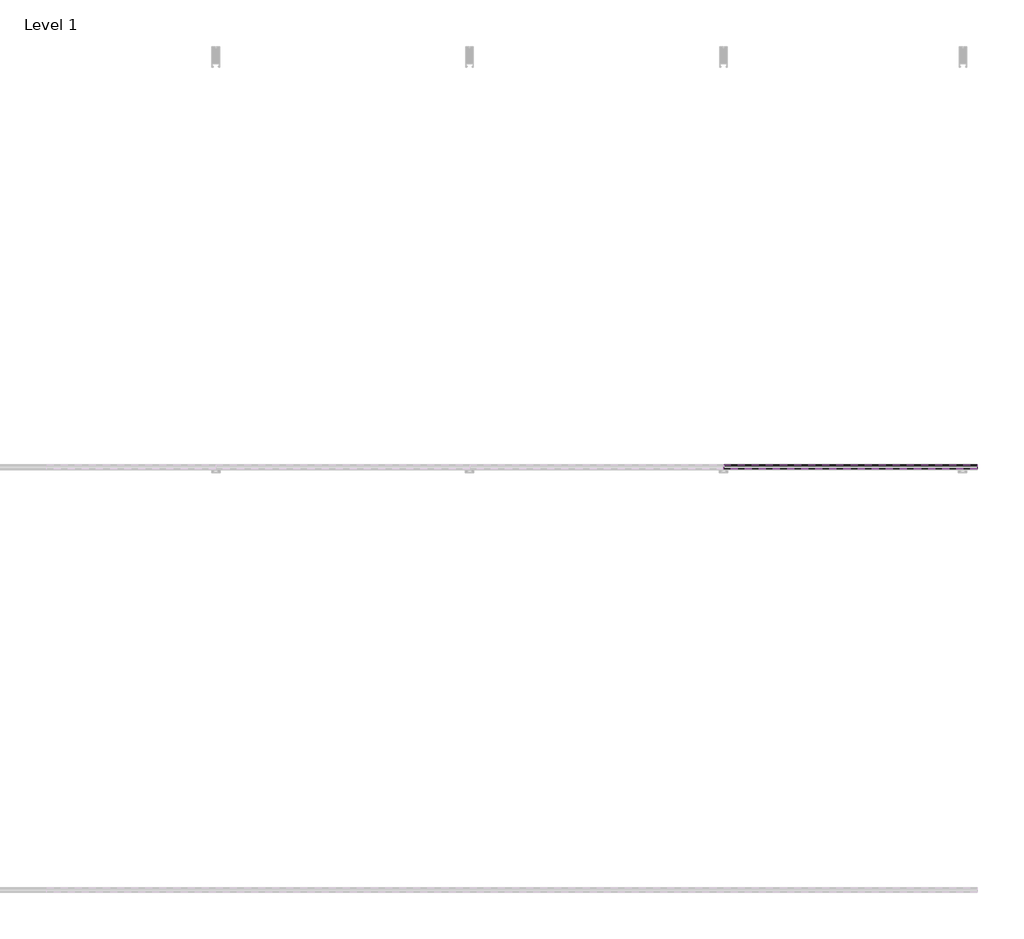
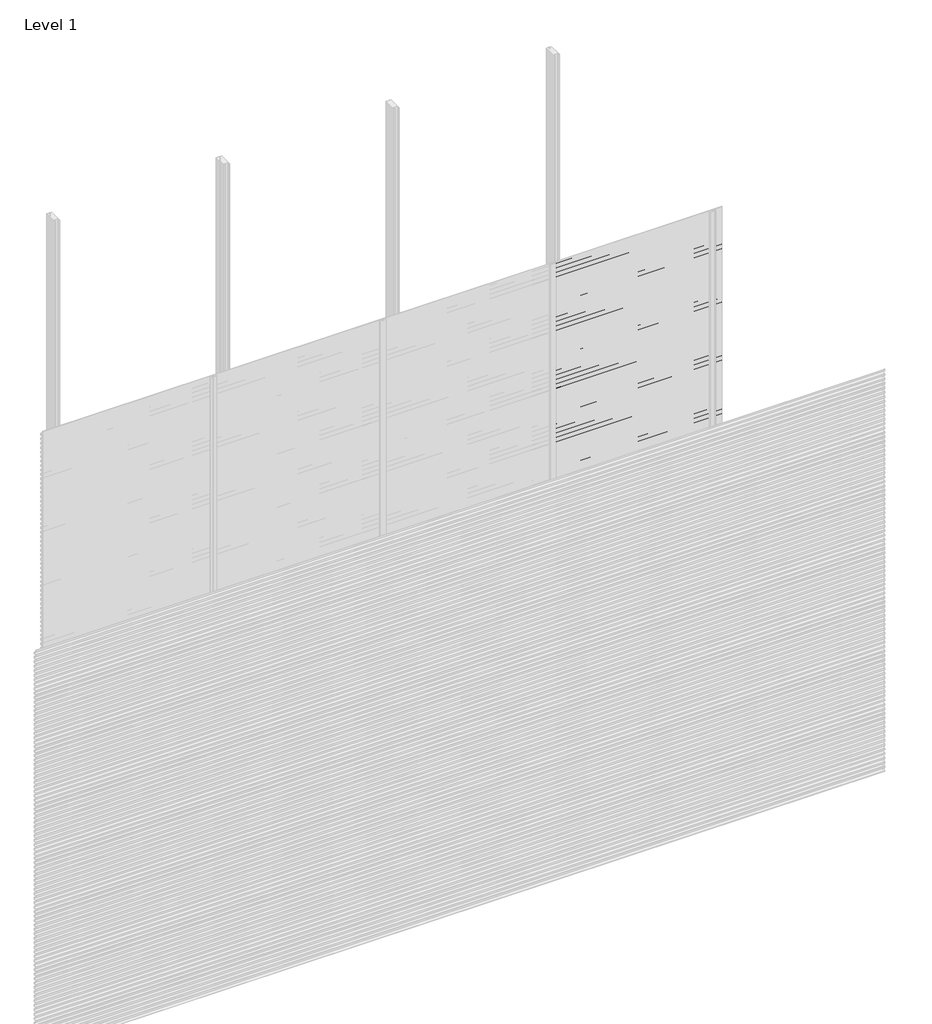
# One storey, part 47 of 77: 72 proxies.
"""IFC4 building model written with IfcOpenShell, lengths in millimetres."""

import ifcopenshell
import ifcopenshell.guid

model = None  # the IFC model being written
_history = None  # IfcOwnerHistory: only IFC2X3 demands one
_inside = {}  # id of a spatial element -> (the spatial element, [elements in it])
_under = {}  # id of a project, library or spatial element -> (it, [spatial elements below it])
_declared = {}  # id of a project -> (the project, [libraries it declares])
_typed = {}  # id of a type object -> (the type object, [elements of that type])
_made_of = {}  # id of a material, layer set ... -> (it, [elements and type objects made of it])


def new_model(schema):
    """Start an empty IFC model of exactly this schema.

    Asked for "IFC4X3", IfcOpenShell would pick the latest addendum, in which some entities
    have other attributes; the version numbers below select the first issue.
    IFC2X3 requires an IfcOwnerHistory on every rooted entity: one is made here for all.
    """
    global model, _history
    if schema == "IFC4X3":
        model = ifcopenshell.file(schema_version=(4, 3, 0, 0))
    else:
        model = ifcopenshell.file(schema=schema)
    _inside.clear()
    _under.clear()
    _declared.clear()
    _typed.clear()
    _made_of.clear()
    _history = None
    if model.schema == "IFC2X3":
        org = make("IfcOrganization", Name="unknown")
        user = make(
            "IfcPersonAndOrganization",
            ThePerson=make("IfcPerson", FamilyName="unknown"),
            TheOrganization=org,
        )
        app = make(
            "IfcApplication",
            ApplicationDeveloper=org,
            Version="unknown",
            ApplicationFullName="unknown",
            ApplicationIdentifier="unknown",
        )
        _history = make(
            "IfcOwnerHistory",
            OwningUser=user,
            OwningApplication=app,
            ChangeAction="ADDED",
            CreationDate=0,
        )
    return model


def make(cls, **values):
    """One entity of the class cls with the attributes given. An attribute that is None is left unset."""
    return model.create_entity(
        cls, **{name: value for name, value in values.items() if value is not None}
    )


def rooted(cls, **values):
    """An entity with a GlobalId (a new one), such as an element, a storey or a relation."""
    return make(cls, GlobalId=ifcopenshell.guid.new(), OwnerHistory=_history, **values)


def si_unit(unit_type, name, prefix=None):
    """IfcSIUnit, for example si_unit("LENGTHUNIT", "METRE", prefix="MILLI")."""
    return make("IfcSIUnit", UnitType=unit_type, Prefix=prefix, Name=name)


def assignment(units):
    """IfcUnitAssignment: the units of a project."""
    return None if units is None else make("IfcUnitAssignment", Units=units)


def point(xyz):
    """IfcCartesianPoint."""
    return None if xyz is None else make("IfcCartesianPoint", Coordinates=xyz)


def direction(xyz):
    """IfcDirection."""
    return None if xyz is None else make("IfcDirection", DirectionRatios=xyz)


def frame(location, z_axis=None, x_axis=None):
    """IfcAxis2Placement3D, a coordinate frame: its origin and axes. An axis left out is left unset."""
    return make(
        "IfcAxis2Placement3D",
        Location=point(location),
        Axis=direction(z_axis),
        RefDirection=direction(x_axis),
    )


def origin():
    """The frame at (0, 0, 0) with its axes left unset."""
    return frame((0.0, 0.0, 0.0))


def place(relative_to, where):
    """IfcLocalPlacement: puts the frame where relative to a parent placement (None: the world)."""
    return make(
        "IfcLocalPlacement", PlacementRelTo=relative_to, RelativePlacement=where
    )


def context(
    kind, dimensions, precision=None, world=None, true_north=None, identifier=None
):
    """IfcGeometricRepresentationContext, for example the 3D "Model" context."""
    return make(
        "IfcGeometricRepresentationContext",
        ContextIdentifier=identifier,
        ContextType=kind,
        CoordinateSpaceDimension=dimensions,
        Precision=precision,
        WorldCoordinateSystem=world,
        TrueNorth=true_north,
    )


def project(units=None, contexts=None):
    """IfcProject with its units and contexts."""
    return rooted(
        "IfcProject",
        Name="project",
        RepresentationContexts=contexts,
        UnitsInContext=assignment(units),
    )


def spatial(cls, under=None, at=None, **own):
    """A site, building, storey or space (cls), placed at a placement, below another one or the project."""
    s = rooted(cls, ObjectPlacement=at, **own)
    if under is not None:
        _under.setdefault(under.id(), (under, []))[1].append(s)
    return s


def polyline(points):
    """IfcPolyline through the points."""
    return make("IfcPolyline", Points=[point(p) for p in points])


def outline(outer, holes=None, kind="AREA"):
    """IfcArbitraryClosedProfileDef: a profile drawn as a closed curve; with holes, ...WithVoids."""
    if holes is None:
        return make("IfcArbitraryClosedProfileDef", ProfileType=kind, OuterCurve=outer)
    return make(
        "IfcArbitraryProfileDefWithVoids",
        ProfileType=kind,
        OuterCurve=outer,
        InnerCurves=holes,
    )


def extrude(swept, where, along, depth):
    """IfcExtrudedAreaSolid: the profile swept, set in the frame where, extruded along a direction by depth."""
    return make(
        "IfcExtrudedAreaSolid",
        SweptArea=swept,
        Position=where,
        ExtrudedDirection=direction(along),
        Depth=depth,
    )


def shape(context_of_items, identifier, shape_type, items):
    """IfcShapeRepresentation: the items that make up one representation, for example the "Body"."""
    return make(
        "IfcShapeRepresentation",
        ContextOfItems=context_of_items,
        RepresentationIdentifier=identifier,
        RepresentationType=shape_type,
        Items=items,
    )


def made_of(thing, what):
    """Note that an element or type object is made of a material, layer set ...; save() writes the relation."""
    if what is not None:
        _made_of.setdefault(what.id(), (what, []))[1].append(thing)
    return thing


def element(
    cls,
    number,
    at=None,
    inside=None,
    cuts=None,
    type_object=None,
    material=None,
    context=None,
    identifier="Body",
    shape_type=None,
    held_by="IfcProductDefinitionShape",
    body=None,
    shapes=None,
    **own,
):
    """One element of the class cls, such as IfcWall. Its Tag is "e" and its number.

    at: its placement. inside: the storey or other place that contains it. cuts: it is an
    opening in that element (IfcRelVoidsElement). A single representation is given by context,
    identifier, shape_type and body (its items); several are given by shapes. held_by: the class
    of the entity that holds the representations. save() writes the other relations.
    """
    e = rooted(cls, Tag="e%d" % number, ObjectPlacement=at, **own)
    if body is not None:
        shapes = [shape(context, identifier, shape_type, body)]
    if shapes is not None:
        e.Representation = make(held_by, Representations=shapes)
    if inside is not None:
        _inside.setdefault(inside.id(), (inside, []))[1].append(e)
    if cuts is not None:
        rooted(
            "IfcRelVoidsElement", RelatingBuildingElement=cuts, RelatedOpeningElement=e
        )
    if type_object is not None:
        _typed.setdefault(type_object.id(), (type_object, []))[1].append(e)
    return made_of(e, material)


def aggregate(whole, parts):
    """IfcRelAggregates: a whole, such as a stair, and the parts it consists of."""
    return rooted("IfcRelAggregates", RelatingObject=whole, RelatedObjects=parts)


def save(model, path):
    """Write the relations noted so far, then the file.

    IfcRelAggregates (storeys below a building ...), IfcRelContainedInSpatialStructure (elements
    in a storey), IfcRelDefinesByType, IfcRelAssociatesMaterial and IfcRelDeclares: one each for
    every whole, place, type object, material and project.
    """
    for whole, parts in _under.values():
        aggregate(whole, parts)
    for where, things in _inside.values():
        rooted(
            "IfcRelContainedInSpatialStructure",
            RelatedElements=things,
            RelatingStructure=where,
        )
    for kind, things in _typed.values():
        rooted("IfcRelDefinesByType", RelatedObjects=things, RelatingType=kind)
    for what, things in _made_of.values():
        rooted("IfcRelAssociatesMaterial", RelatedObjects=things, RelatingMaterial=what)
    for by, libraries in _declared.values():
        rooted("IfcRelDeclares", RelatingContext=by, RelatedDefinitions=libraries)
    model.write(path)


model = new_model("IFC4")

# Units and contexts
model_context = context("Model", 3, world=origin())
ifc_project = project(units=[si_unit("LENGTHUNIT", "METRE", prefix="MILLI")], contexts=[model_context])

# Site, building, storey
site = spatial("IfcSite", under=ifc_project)
building = spatial("IfcBuilding", under=site)
storey = spatial("IfcBuildingStorey", under=building, Name="Level 1", Elevation=0.0)

# Proxies
placement = place(None, origin())
element("IfcBuildingElementProxy", 1, Name="Wall Sweeps", at=placement, inside=storey, context=model_context, shape_type="SweptSolid", body=[
    extrude(outline(polyline([(-23978.6, 408.4359887), (-23998.0, 419.6366691), (-23998.0, 432.9), (-23997.0, 432.9), (-23997.0, 420.2191057), (-23977.6, 409.0185105), (-23977.6, 395.4185105), (-23978.6, 396.9953129), (-23978.6, 402.8032062), (-23995.9773817, 394.7), (-23996.4, 395.6063078), (-23978.6, 403.9065841), (-23978.6, 408.4359887)])), frame((3600.0, 0.0, 0.0), z_axis=(1.0, 0.0, 0.0), x_axis=(0.0, 1.0, 0.0)), (0.0, 0.0, 1.0), 1200.0),
])
element("IfcBuildingElementProxy", 2, Name="Wall Sweeps", at=placement, inside=storey, context=model_context, shape_type="SweptSolid", body=[
    extrude(outline(polyline([(-23978.6, 375.1359887), (-23998.0, 386.3366691), (-23998.0, 399.6), (-23997.0, 399.6), (-23997.0, 386.9191057), (-23977.6, 375.7185105), (-23977.6, 362.1185105), (-23978.6, 363.6953129), (-23978.6, 369.5032062), (-23995.9773817, 361.4), (-23996.4, 362.3063078), (-23978.6, 370.6065841), (-23978.6, 375.1359887)])), frame((3600.0, 0.0, 0.0), z_axis=(1.0, 0.0, 0.0), x_axis=(0.0, 1.0, 0.0)), (0.0, 0.0, 1.0), 1200.0),
])
element("IfcBuildingElementProxy", 3, Name="Wall Sweeps", at=placement, inside=storey, context=model_context, shape_type="SweptSolid", body=[
    extrude(outline(polyline([(-23978.6, 341.8359887), (-23998.0, 353.0366691), (-23998.0, 366.3), (-23997.0, 366.3), (-23997.0, 353.6191057), (-23977.6, 342.4185105), (-23977.6, 328.8185105), (-23978.6, 330.3953129), (-23978.6, 336.2032062), (-23995.9773817, 328.1), (-23996.4, 329.0063078), (-23978.6, 337.3065841), (-23978.6, 341.8359887)])), frame((3600.0, 0.0, 0.0), z_axis=(1.0, 0.0, 0.0), x_axis=(0.0, 1.0, 0.0)), (0.0, 0.0, 1.0), 1200.0),
])
element("IfcBuildingElementProxy", 4, Name="Wall Sweeps", at=placement, inside=storey, context=model_context, shape_type="SweptSolid", body=[
    extrude(outline(polyline([(-23978.6, 308.5359887), (-23998.0, 319.7366691), (-23998.0, 333.0), (-23997.0, 333.0), (-23997.0, 320.3191057), (-23977.6, 309.1185105), (-23977.6, 295.5185105), (-23978.6, 297.0953129), (-23978.6, 302.9032062), (-23995.9773817, 294.8), (-23996.4, 295.7063078), (-23978.6, 304.0065841), (-23978.6, 308.5359887)])), frame((3600.0, 0.0, 0.0), z_axis=(1.0, 0.0, 0.0), x_axis=(0.0, 1.0, 0.0)), (0.0, 0.0, 1.0), 1200.0),
])
element("IfcBuildingElementProxy", 5, Name="Wall Sweeps", at=placement, inside=storey, context=model_context, shape_type="SweptSolid", body=[
    extrude(outline(polyline([(-23978.6, 275.2359887), (-23998.0, 286.4366691), (-23998.0, 299.7), (-23997.0, 299.7), (-23997.0, 287.0191057), (-23977.6, 275.8185105), (-23977.6, 262.2185105), (-23978.6, 263.7953129), (-23978.6, 269.6032062), (-23995.9773817, 261.5), (-23996.4, 262.4063078), (-23978.6, 270.7065841), (-23978.6, 275.2359887)])), frame((3600.0, 0.0, 0.0), z_axis=(1.0, 0.0, 0.0), x_axis=(0.0, 1.0, 0.0)), (0.0, 0.0, 1.0), 1200.0),
])
element("IfcBuildingElementProxy", 6, Name="Wall Sweeps", at=placement, inside=storey, context=model_context, shape_type="SweptSolid", body=[
    extrude(outline(polyline([(-23978.6, 241.9359887), (-23998.0, 253.1366691), (-23998.0, 266.4), (-23997.0, 266.4), (-23997.0, 253.7191057), (-23977.6, 242.5185105), (-23977.6, 228.9185105), (-23978.6, 230.4953129), (-23978.6, 236.3032062), (-23995.9773817, 228.2), (-23996.4, 229.1063078), (-23978.6, 237.4065841), (-23978.6, 241.9359887)])), frame((3600.0, 0.0, 0.0), z_axis=(1.0, 0.0, 0.0), x_axis=(0.0, 1.0, 0.0)), (0.0, 0.0, 1.0), 1200.0),
])
element("IfcBuildingElementProxy", 7, Name="Wall Sweeps", at=placement, inside=storey, context=model_context, shape_type="SweptSolid", body=[
    extrude(outline(polyline([(-23978.6, 208.6359887), (-23998.0, 219.8366691), (-23998.0, 233.1), (-23997.0, 233.1), (-23997.0, 220.4191057), (-23977.6, 209.2185105), (-23977.6, 195.6185105), (-23978.6, 197.1953129), (-23978.6, 203.0032062), (-23995.9773817, 194.9), (-23996.4, 195.8063078), (-23978.6, 204.1065841), (-23978.6, 208.6359887)])), frame((3600.0, 0.0, 0.0), z_axis=(1.0, 0.0, 0.0), x_axis=(0.0, 1.0, 0.0)), (0.0, 0.0, 1.0), 1200.0),
])
element("IfcBuildingElementProxy", 8, Name="Wall Sweeps", at=placement, inside=storey, context=model_context, shape_type="SweptSolid", body=[
    extrude(outline(polyline([(-23978.6, 175.3359887), (-23998.0, 186.5366691), (-23998.0, 199.8), (-23997.0, 199.8), (-23997.0, 187.1191057), (-23977.6, 175.9185105), (-23977.6, 162.3185105), (-23978.6, 163.8953129), (-23978.6, 169.7032062), (-23995.9773817, 161.6), (-23996.4, 162.5063078), (-23978.6, 170.8065841), (-23978.6, 175.3359887)])), frame((3600.0, 0.0, 0.0), z_axis=(1.0, 0.0, 0.0), x_axis=(0.0, 1.0, 0.0)), (0.0, 0.0, 1.0), 1200.0),
])
element("IfcBuildingElementProxy", 9, Name="Wall Sweeps", at=placement, inside=storey, context=model_context, shape_type="SweptSolid", body=[
    extrude(outline(polyline([(-23978.6, 142.0359887), (-23998.0, 153.2366691), (-23998.0, 166.5), (-23997.0, 166.5), (-23997.0, 153.8191057), (-23977.6, 142.6185105), (-23977.6, 129.0185105), (-23978.6, 130.5953129), (-23978.6, 136.4032062), (-23995.9773817, 128.3), (-23996.4, 129.2063078), (-23978.6, 137.5065841), (-23978.6, 142.0359887)])), frame((3600.0, 0.0, 0.0), z_axis=(1.0, 0.0, 0.0), x_axis=(0.0, 1.0, 0.0)), (0.0, 0.0, 1.0), 1200.0),
])
element("IfcBuildingElementProxy", 10, Name="Wall Sweeps", at=placement, inside=storey, context=model_context, shape_type="SweptSolid", body=[
    extrude(outline(polyline([(-23978.6, 108.7359887), (-23998.0, 119.9366691), (-23998.0, 133.2), (-23997.0, 133.2), (-23997.0, 120.5191057), (-23977.6, 109.3185105), (-23977.6, 95.7185105), (-23978.6, 97.2953129), (-23978.6, 103.1032062), (-23995.9773817, 95.0), (-23996.4, 95.9063078), (-23978.6, 104.2065841), (-23978.6, 108.7359887)])), frame((3600.0, 0.0, 0.0), z_axis=(1.0, 0.0, 0.0), x_axis=(0.0, 1.0, 0.0)), (0.0, 0.0, 1.0), 1200.0),
])
element("IfcBuildingElementProxy", 11, Name="Wall Sweeps", at=placement, inside=storey, context=model_context, shape_type="SweptSolid", body=[
    extrude(outline(polyline([(-23978.6, 75.4359887), (-23998.0, 86.6366691), (-23998.0, 99.9), (-23997.0, 99.9), (-23997.0, 87.2191057), (-23977.6, 76.0185105), (-23977.6, 62.4185105), (-23978.6, 63.9953129), (-23978.6, 69.8032062), (-23995.9773817, 61.7), (-23996.4, 62.6063078), (-23978.6, 70.9065841), (-23978.6, 75.4359887)])), frame((3600.0, 0.0, 0.0), z_axis=(1.0, 0.0, 0.0), x_axis=(0.0, 1.0, 0.0)), (0.0, 0.0, 1.0), 1200.0),
])
element("IfcBuildingElementProxy", 12, Name="Wall Sweeps", at=placement, inside=storey, context=model_context, shape_type="SweptSolid", body=[
    extrude(outline(polyline([(-23978.6, 42.1359887), (-23998.0, 53.3366691), (-23998.0, 66.6), (-23997.0, 66.6), (-23997.0, 53.9191057), (-23977.6, 42.7185105), (-23977.6, 29.1185105), (-23978.6, 30.6953129), (-23978.6, 36.5032062), (-23995.9773817, 28.4), (-23996.4, 29.3063078), (-23978.6, 37.6065841), (-23978.6, 42.1359887)])), frame((3600.0, 0.0, 0.0), z_axis=(1.0, 0.0, 0.0), x_axis=(0.0, 1.0, 0.0)), (0.0, 0.0, 1.0), 1200.0),
])
element("IfcBuildingElementProxy", 13, Name="Wall Sweeps", at=placement, inside=storey, context=model_context, shape_type="SweptSolid", body=[
    extrude(outline(polyline([(-23978.6, 8.8359887), (-23998.0, 20.0366691), (-23998.0, 33.3), (-23997.0, 33.3), (-23997.0, 20.6191057), (-23977.6, 9.4185105), (-23977.6, -4.1814895), (-23978.6, -2.6046871), (-23978.6, 3.2032062), (-23995.9773817, -4.9), (-23996.4, -3.9936922), (-23978.6, 4.3065841), (-23978.6, 8.8359887)])), frame((3600.0, 0.0, 0.0), z_axis=(1.0, 0.0, 0.0), x_axis=(0.0, 1.0, 0.0)), (0.0, 0.0, 1.0), 1200.0),
])
element("IfcBuildingElementProxy", 14, Name="Wall Sweeps", at=placement, inside=storey, context=model_context, shape_type="SweptSolid", body=[
    extrude(outline(polyline([(-23978.6, 2972.5359887), (-23998.0, 2983.7366691), (-23998.0, 2997.0), (-23997.0, 2997.0), (-23997.0, 2984.3191057), (-23977.6, 2973.1185105), (-23977.6, 2959.5185105), (-23978.6, 2961.0953129), (-23978.6, 2966.9032062), (-23995.9773817, 2958.8), (-23996.4, 2959.7063078), (-23978.6, 2968.0065841), (-23978.6, 2972.5359887)])), frame((4800.0, 0.0, 0.0), z_axis=(1.0, 0.0, 0.0), x_axis=(0.0, 1.0, 0.0)), (0.0, 0.0, 1.0), 1200.0),
])
element("IfcBuildingElementProxy", 15, Name="Wall Sweeps", at=placement, inside=storey, context=model_context, shape_type="SweptSolid", body=[
    extrude(outline(polyline([(-23978.6, 2939.2359887), (-23998.0, 2950.4366691), (-23998.0, 2963.7), (-23997.0, 2963.7), (-23997.0, 2951.0191057), (-23977.6, 2939.8185105), (-23977.6, 2926.2185105), (-23978.6, 2927.7953129), (-23978.6, 2933.6032062), (-23995.9773817, 2925.5), (-23996.4, 2926.4063078), (-23978.6, 2934.7065841), (-23978.6, 2939.2359887)])), frame((4800.0, 0.0, 0.0), z_axis=(1.0, 0.0, 0.0), x_axis=(0.0, 1.0, 0.0)), (0.0, 0.0, 1.0), 1200.0),
])
element("IfcBuildingElementProxy", 16, Name="Wall Sweeps", at=placement, inside=storey, context=model_context, shape_type="SweptSolid", body=[
    extrude(outline(polyline([(-23978.6, 2905.9359887), (-23998.0, 2917.1366691), (-23998.0, 2930.4), (-23997.0, 2930.4), (-23997.0, 2917.7191057), (-23977.6, 2906.5185105), (-23977.6, 2892.9185105), (-23978.6, 2894.4953129), (-23978.6, 2900.3032062), (-23995.9773817, 2892.2), (-23996.4, 2893.1063078), (-23978.6, 2901.4065841), (-23978.6, 2905.9359887)])), frame((4800.0, 0.0, 0.0), z_axis=(1.0, 0.0, 0.0), x_axis=(0.0, 1.0, 0.0)), (0.0, 0.0, 1.0), 1200.0),
])
element("IfcBuildingElementProxy", 17, Name="Wall Sweeps", at=placement, inside=storey, context=model_context, shape_type="SweptSolid", body=[
    extrude(outline(polyline([(-23978.6, 2872.6359887), (-23998.0, 2883.8366691), (-23998.0, 2897.1), (-23997.0, 2897.1), (-23997.0, 2884.4191057), (-23977.6, 2873.2185105), (-23977.6, 2859.6185105), (-23978.6, 2861.1953129), (-23978.6, 2867.0032062), (-23995.9773817, 2858.9), (-23996.4, 2859.8063078), (-23978.6, 2868.1065841), (-23978.6, 2872.6359887)])), frame((4800.0, 0.0, 0.0), z_axis=(1.0, 0.0, 0.0), x_axis=(0.0, 1.0, 0.0)), (0.0, 0.0, 1.0), 1200.0),
])
element("IfcBuildingElementProxy", 18, Name="Wall Sweeps", at=placement, inside=storey, context=model_context, shape_type="SweptSolid", body=[
    extrude(outline(polyline([(-23978.6, 2839.3359887), (-23998.0, 2850.5366691), (-23998.0, 2863.8), (-23997.0, 2863.8), (-23997.0, 2851.1191057), (-23977.6, 2839.9185105), (-23977.6, 2826.3185105), (-23978.6, 2827.8953129), (-23978.6, 2833.7032062), (-23995.9773817, 2825.6), (-23996.4, 2826.5063078), (-23978.6, 2834.8065841), (-23978.6, 2839.3359887)])), frame((4800.0, 0.0, 0.0), z_axis=(1.0, 0.0, 0.0), x_axis=(0.0, 1.0, 0.0)), (0.0, 0.0, 1.0), 1200.0),
])
element("IfcBuildingElementProxy", 19, Name="Wall Sweeps", at=placement, inside=storey, context=model_context, shape_type="SweptSolid", body=[
    extrude(outline(polyline([(-23978.6, 2806.0359887), (-23998.0, 2817.2366691), (-23998.0, 2830.5), (-23997.0, 2830.5), (-23997.0, 2817.8191057), (-23977.6, 2806.6185105), (-23977.6, 2793.0185105), (-23978.6, 2794.5953129), (-23978.6, 2800.4032062), (-23995.9773817, 2792.3), (-23996.4, 2793.2063078), (-23978.6, 2801.5065841), (-23978.6, 2806.0359887)])), frame((4800.0, 0.0, 0.0), z_axis=(1.0, 0.0, 0.0), x_axis=(0.0, 1.0, 0.0)), (0.0, 0.0, 1.0), 1200.0),
])
element("IfcBuildingElementProxy", 20, Name="Wall Sweeps", at=placement, inside=storey, context=model_context, shape_type="SweptSolid", body=[
    extrude(outline(polyline([(-23978.6, 2772.7359887), (-23998.0, 2783.9366691), (-23998.0, 2797.2), (-23997.0, 2797.2), (-23997.0, 2784.5191057), (-23977.6, 2773.3185105), (-23977.6, 2759.7185105), (-23978.6, 2761.2953129), (-23978.6, 2767.1032062), (-23995.9773817, 2759.0), (-23996.4, 2759.9063078), (-23978.6, 2768.2065841), (-23978.6, 2772.7359887)])), frame((4800.0, 0.0, 0.0), z_axis=(1.0, 0.0, 0.0), x_axis=(0.0, 1.0, 0.0)), (0.0, 0.0, 1.0), 1200.0),
])
element("IfcBuildingElementProxy", 21, Name="Wall Sweeps", at=placement, inside=storey, context=model_context, shape_type="SweptSolid", body=[
    extrude(outline(polyline([(-23978.6, 2739.4359887), (-23998.0, 2750.6366691), (-23998.0, 2763.9), (-23997.0, 2763.9), (-23997.0, 2751.2191057), (-23977.6, 2740.0185105), (-23977.6, 2726.4185105), (-23978.6, 2727.9953129), (-23978.6, 2733.8032062), (-23995.9773817, 2725.7), (-23996.4, 2726.6063078), (-23978.6, 2734.9065841), (-23978.6, 2739.4359887)])), frame((4800.0, 0.0, 0.0), z_axis=(1.0, 0.0, 0.0), x_axis=(0.0, 1.0, 0.0)), (0.0, 0.0, 1.0), 1200.0),
])
element("IfcBuildingElementProxy", 22, Name="Wall Sweeps", at=placement, inside=storey, context=model_context, shape_type="SweptSolid", body=[
    extrude(outline(polyline([(-23978.6, 2706.1359887), (-23998.0, 2717.3366691), (-23998.0, 2730.6), (-23997.0, 2730.6), (-23997.0, 2717.9191057), (-23977.6, 2706.7185105), (-23977.6, 2693.1185105), (-23978.6, 2694.6953129), (-23978.6, 2700.5032062), (-23995.9773817, 2692.4), (-23996.4, 2693.3063078), (-23978.6, 2701.6065841), (-23978.6, 2706.1359887)])), frame((4800.0, 0.0, 0.0), z_axis=(1.0, 0.0, 0.0), x_axis=(0.0, 1.0, 0.0)), (0.0, 0.0, 1.0), 1200.0),
])
element("IfcBuildingElementProxy", 23, Name="Wall Sweeps", at=placement, inside=storey, context=model_context, shape_type="SweptSolid", body=[
    extrude(outline(polyline([(-23978.6, 2672.8359887), (-23998.0, 2684.0366691), (-23998.0, 2697.3), (-23997.0, 2697.3), (-23997.0, 2684.6191057), (-23977.6, 2673.4185105), (-23977.6, 2659.8185105), (-23978.6, 2661.3953129), (-23978.6, 2667.2032062), (-23995.9773817, 2659.1), (-23996.4, 2660.0063078), (-23978.6, 2668.3065841), (-23978.6, 2672.8359887)])), frame((4800.0, 0.0, 0.0), z_axis=(1.0, 0.0, 0.0), x_axis=(0.0, 1.0, 0.0)), (0.0, 0.0, 1.0), 1200.0),
])
element("IfcBuildingElementProxy", 24, Name="Wall Sweeps", at=placement, inside=storey, context=model_context, shape_type="SweptSolid", body=[
    extrude(outline(polyline([(-23978.6, 2639.5359887), (-23998.0, 2650.7366691), (-23998.0, 2664.0), (-23997.0, 2664.0), (-23997.0, 2651.3191057), (-23977.6, 2640.1185105), (-23977.6, 2626.5185105), (-23978.6, 2628.0953129), (-23978.6, 2633.9032062), (-23995.9773817, 2625.8), (-23996.4, 2626.7063078), (-23978.6, 2635.0065841), (-23978.6, 2639.5359887)])), frame((4800.0, 0.0, 0.0), z_axis=(1.0, 0.0, 0.0), x_axis=(0.0, 1.0, 0.0)), (0.0, 0.0, 1.0), 1200.0),
])
element("IfcBuildingElementProxy", 25, Name="Wall Sweeps", at=placement, inside=storey, context=model_context, shape_type="SweptSolid", body=[
    extrude(outline(polyline([(-23978.6, 2606.2359887), (-23998.0, 2617.4366691), (-23998.0, 2630.7), (-23997.0, 2630.7), (-23997.0, 2618.0191057), (-23977.6, 2606.8185105), (-23977.6, 2593.2185105), (-23978.6, 2594.7953129), (-23978.6, 2600.6032062), (-23995.9773817, 2592.5), (-23996.4, 2593.4063078), (-23978.6, 2601.7065841), (-23978.6, 2606.2359887)])), frame((4800.0, 0.0, 0.0), z_axis=(1.0, 0.0, 0.0), x_axis=(0.0, 1.0, 0.0)), (0.0, 0.0, 1.0), 1200.0),
])
element("IfcBuildingElementProxy", 26, Name="Wall Sweeps", at=placement, inside=storey, context=model_context, shape_type="SweptSolid", body=[
    extrude(outline(polyline([(-23978.6, 2572.9359887), (-23998.0, 2584.1366691), (-23998.0, 2597.4), (-23997.0, 2597.4), (-23997.0, 2584.7191057), (-23977.6, 2573.5185105), (-23977.6, 2559.9185105), (-23978.6, 2561.4953129), (-23978.6, 2567.3032062), (-23995.9773817, 2559.2), (-23996.4, 2560.1063078), (-23978.6, 2568.4065841), (-23978.6, 2572.9359887)])), frame((4800.0, 0.0, 0.0), z_axis=(1.0, 0.0, 0.0), x_axis=(0.0, 1.0, 0.0)), (0.0, 0.0, 1.0), 1200.0),
])
element("IfcBuildingElementProxy", 27, Name="Wall Sweeps", at=placement, inside=storey, context=model_context, shape_type="SweptSolid", body=[
    extrude(outline(polyline([(-23978.6, 2539.6359887), (-23998.0, 2550.8366691), (-23998.0, 2564.1), (-23997.0, 2564.1), (-23997.0, 2551.4191057), (-23977.6, 2540.2185105), (-23977.6, 2526.6185105), (-23978.6, 2528.1953129), (-23978.6, 2534.0032062), (-23995.9773817, 2525.9), (-23996.4, 2526.8063078), (-23978.6, 2535.1065841), (-23978.6, 2539.6359887)])), frame((4800.0, 0.0, 0.0), z_axis=(1.0, 0.0, 0.0), x_axis=(0.0, 1.0, 0.0)), (0.0, 0.0, 1.0), 1200.0),
])
element("IfcBuildingElementProxy", 28, Name="Wall Sweeps", at=placement, inside=storey, context=model_context, shape_type="SweptSolid", body=[
    extrude(outline(polyline([(-23978.6, 2506.3359887), (-23998.0, 2517.5366691), (-23998.0, 2530.8), (-23997.0, 2530.8), (-23997.0, 2518.1191057), (-23977.6, 2506.9185105), (-23977.6, 2493.3185105), (-23978.6, 2494.8953129), (-23978.6, 2500.7032062), (-23995.9773817, 2492.6), (-23996.4, 2493.5063078), (-23978.6, 2501.8065841), (-23978.6, 2506.3359887)])), frame((4800.0, 0.0, 0.0), z_axis=(1.0, 0.0, 0.0), x_axis=(0.0, 1.0, 0.0)), (0.0, 0.0, 1.0), 1200.0),
])
element("IfcBuildingElementProxy", 29, Name="Wall Sweeps", at=placement, inside=storey, context=model_context, shape_type="SweptSolid", body=[
    extrude(outline(polyline([(-23978.6, 2473.0359887), (-23998.0, 2484.2366691), (-23998.0, 2497.5), (-23997.0, 2497.5), (-23997.0, 2484.8191057), (-23977.6, 2473.6185105), (-23977.6, 2460.0185105), (-23978.6, 2461.5953129), (-23978.6, 2467.4032062), (-23995.9773817, 2459.3), (-23996.4, 2460.2063078), (-23978.6, 2468.5065841), (-23978.6, 2473.0359887)])), frame((4800.0, 0.0, 0.0), z_axis=(1.0, 0.0, 0.0), x_axis=(0.0, 1.0, 0.0)), (0.0, 0.0, 1.0), 1200.0),
])
element("IfcBuildingElementProxy", 30, Name="Wall Sweeps", at=placement, inside=storey, context=model_context, shape_type="SweptSolid", body=[
    extrude(outline(polyline([(-23978.6, 2439.7359887), (-23998.0, 2450.9366691), (-23998.0, 2464.2), (-23997.0, 2464.2), (-23997.0, 2451.5191057), (-23977.6, 2440.3185105), (-23977.6, 2426.7185105), (-23978.6, 2428.2953129), (-23978.6, 2434.1032062), (-23995.9773817, 2426.0), (-23996.4, 2426.9063078), (-23978.6, 2435.2065841), (-23978.6, 2439.7359887)])), frame((4800.0, 0.0, 0.0), z_axis=(1.0, 0.0, 0.0), x_axis=(0.0, 1.0, 0.0)), (0.0, 0.0, 1.0), 1200.0),
])
element("IfcBuildingElementProxy", 31, Name="Wall Sweeps", at=placement, inside=storey, context=model_context, shape_type="SweptSolid", body=[
    extrude(outline(polyline([(-23978.6, 2406.4359887), (-23998.0, 2417.6366691), (-23998.0, 2430.9), (-23997.0, 2430.9), (-23997.0, 2418.2191057), (-23977.6, 2407.0185105), (-23977.6, 2393.4185105), (-23978.6, 2394.9953129), (-23978.6, 2400.8032062), (-23995.9773817, 2392.7), (-23996.4, 2393.6063078), (-23978.6, 2401.9065841), (-23978.6, 2406.4359887)])), frame((4800.0, 0.0, 0.0), z_axis=(1.0, 0.0, 0.0), x_axis=(0.0, 1.0, 0.0)), (0.0, 0.0, 1.0), 1200.0),
])
element("IfcBuildingElementProxy", 32, Name="Wall Sweeps", at=placement, inside=storey, context=model_context, shape_type="SweptSolid", body=[
    extrude(outline(polyline([(-23978.6, 2373.1359887), (-23998.0, 2384.3366691), (-23998.0, 2397.6), (-23997.0, 2397.6), (-23997.0, 2384.9191057), (-23977.6, 2373.7185105), (-23977.6, 2360.1185105), (-23978.6, 2361.6953129), (-23978.6, 2367.5032062), (-23995.9773817, 2359.4), (-23996.4, 2360.3063078), (-23978.6, 2368.6065841), (-23978.6, 2373.1359887)])), frame((4800.0, 0.0, 0.0), z_axis=(1.0, 0.0, 0.0), x_axis=(0.0, 1.0, 0.0)), (0.0, 0.0, 1.0), 1200.0),
])
element("IfcBuildingElementProxy", 33, Name="Wall Sweeps", at=placement, inside=storey, context=model_context, shape_type="SweptSolid", body=[
    extrude(outline(polyline([(-23978.6, 2339.8359887), (-23998.0, 2351.0366691), (-23998.0, 2364.3), (-23997.0, 2364.3), (-23997.0, 2351.6191057), (-23977.6, 2340.4185105), (-23977.6, 2326.8185105), (-23978.6, 2328.3953129), (-23978.6, 2334.2032062), (-23995.9773817, 2326.1), (-23996.4, 2327.0063078), (-23978.6, 2335.3065841), (-23978.6, 2339.8359887)])), frame((4800.0, 0.0, 0.0), z_axis=(1.0, 0.0, 0.0), x_axis=(0.0, 1.0, 0.0)), (0.0, 0.0, 1.0), 1200.0),
])
element("IfcBuildingElementProxy", 34, Name="Wall Sweeps", at=placement, inside=storey, context=model_context, shape_type="SweptSolid", body=[
    extrude(outline(polyline([(-23978.6, 2306.5359887), (-23998.0, 2317.7366691), (-23998.0, 2331.0), (-23997.0, 2331.0), (-23997.0, 2318.3191057), (-23977.6, 2307.1185105), (-23977.6, 2293.5185105), (-23978.6, 2295.0953129), (-23978.6, 2300.9032062), (-23995.9773817, 2292.8), (-23996.4, 2293.7063078), (-23978.6, 2302.0065841), (-23978.6, 2306.5359887)])), frame((4800.0, 0.0, 0.0), z_axis=(1.0, 0.0, 0.0), x_axis=(0.0, 1.0, 0.0)), (0.0, 0.0, 1.0), 1200.0),
])
element("IfcBuildingElementProxy", 35, Name="Wall Sweeps", at=placement, inside=storey, context=model_context, shape_type="SweptSolid", body=[
    extrude(outline(polyline([(-23978.6, 2273.2359887), (-23998.0, 2284.4366691), (-23998.0, 2297.7), (-23997.0, 2297.7), (-23997.0, 2285.0191057), (-23977.6, 2273.8185105), (-23977.6, 2260.2185105), (-23978.6, 2261.7953129), (-23978.6, 2267.6032062), (-23995.9773817, 2259.5), (-23996.4, 2260.4063078), (-23978.6, 2268.7065841), (-23978.6, 2273.2359887)])), frame((4800.0, 0.0, 0.0), z_axis=(1.0, 0.0, 0.0), x_axis=(0.0, 1.0, 0.0)), (0.0, 0.0, 1.0), 1200.0),
])
element("IfcBuildingElementProxy", 36, Name="Wall Sweeps", at=placement, inside=storey, context=model_context, shape_type="SweptSolid", body=[
    extrude(outline(polyline([(-23978.6, 2239.9359887), (-23998.0, 2251.1366691), (-23998.0, 2264.4), (-23997.0, 2264.4), (-23997.0, 2251.7191057), (-23977.6, 2240.5185105), (-23977.6, 2226.9185105), (-23978.6, 2228.4953129), (-23978.6, 2234.3032062), (-23995.9773817, 2226.2), (-23996.4, 2227.1063078), (-23978.6, 2235.4065841), (-23978.6, 2239.9359887)])), frame((4800.0, 0.0, 0.0), z_axis=(1.0, 0.0, 0.0), x_axis=(0.0, 1.0, 0.0)), (0.0, 0.0, 1.0), 1200.0),
])
element("IfcBuildingElementProxy", 37, Name="Wall Sweeps", at=placement, inside=storey, context=model_context, shape_type="SweptSolid", body=[
    extrude(outline(polyline([(-23978.6, 2206.6359887), (-23998.0, 2217.8366691), (-23998.0, 2231.1), (-23997.0, 2231.1), (-23997.0, 2218.4191057), (-23977.6, 2207.2185105), (-23977.6, 2193.6185105), (-23978.6, 2195.1953129), (-23978.6, 2201.0032062), (-23995.9773817, 2192.9), (-23996.4, 2193.8063078), (-23978.6, 2202.1065841), (-23978.6, 2206.6359887)])), frame((4800.0, 0.0, 0.0), z_axis=(1.0, 0.0, 0.0), x_axis=(0.0, 1.0, 0.0)), (0.0, 0.0, 1.0), 1200.0),
])
element("IfcBuildingElementProxy", 38, Name="Wall Sweeps", at=placement, inside=storey, context=model_context, shape_type="SweptSolid", body=[
    extrude(outline(polyline([(-23978.6, 2173.3359887), (-23998.0, 2184.5366691), (-23998.0, 2197.8), (-23997.0, 2197.8), (-23997.0, 2185.1191057), (-23977.6, 2173.9185105), (-23977.6, 2160.3185105), (-23978.6, 2161.8953129), (-23978.6, 2167.7032062), (-23995.9773817, 2159.6), (-23996.4, 2160.5063078), (-23978.6, 2168.8065841), (-23978.6, 2173.3359887)])), frame((4800.0, 0.0, 0.0), z_axis=(1.0, 0.0, 0.0), x_axis=(0.0, 1.0, 0.0)), (0.0, 0.0, 1.0), 1200.0),
])
element("IfcBuildingElementProxy", 39, Name="Wall Sweeps", at=placement, inside=storey, context=model_context, shape_type="SweptSolid", body=[
    extrude(outline(polyline([(-23978.6, 2140.0359887), (-23998.0, 2151.2366691), (-23998.0, 2164.5), (-23997.0, 2164.5), (-23997.0, 2151.8191057), (-23977.6, 2140.6185105), (-23977.6, 2127.0185105), (-23978.6, 2128.5953129), (-23978.6, 2134.4032062), (-23995.9773817, 2126.3), (-23996.4, 2127.2063078), (-23978.6, 2135.5065841), (-23978.6, 2140.0359887)])), frame((4800.0, 0.0, 0.0), z_axis=(1.0, 0.0, 0.0), x_axis=(0.0, 1.0, 0.0)), (0.0, 0.0, 1.0), 1200.0),
])
element("IfcBuildingElementProxy", 40, Name="Wall Sweeps", at=placement, inside=storey, context=model_context, shape_type="SweptSolid", body=[
    extrude(outline(polyline([(-23978.6, 2106.7359887), (-23998.0, 2117.9366691), (-23998.0, 2131.2), (-23997.0, 2131.2), (-23997.0, 2118.5191057), (-23977.6, 2107.3185105), (-23977.6, 2093.7185105), (-23978.6, 2095.2953129), (-23978.6, 2101.1032062), (-23995.9773817, 2093.0), (-23996.4, 2093.9063078), (-23978.6, 2102.2065841), (-23978.6, 2106.7359887)])), frame((4800.0, 0.0, 0.0), z_axis=(1.0, 0.0, 0.0), x_axis=(0.0, 1.0, 0.0)), (0.0, 0.0, 1.0), 1200.0),
])
element("IfcBuildingElementProxy", 41, Name="Wall Sweeps", at=placement, inside=storey, context=model_context, shape_type="SweptSolid", body=[
    extrude(outline(polyline([(-23978.6, 2073.4359887), (-23998.0, 2084.6366691), (-23998.0, 2097.9), (-23997.0, 2097.9), (-23997.0, 2085.2191057), (-23977.6, 2074.0185105), (-23977.6, 2060.4185105), (-23978.6, 2061.9953129), (-23978.6, 2067.8032062), (-23995.9773817, 2059.7), (-23996.4, 2060.6063078), (-23978.6, 2068.9065841), (-23978.6, 2073.4359887)])), frame((4800.0, 0.0, 0.0), z_axis=(1.0, 0.0, 0.0), x_axis=(0.0, 1.0, 0.0)), (0.0, 0.0, 1.0), 1200.0),
])
element("IfcBuildingElementProxy", 42, Name="Wall Sweeps", at=placement, inside=storey, context=model_context, shape_type="SweptSolid", body=[
    extrude(outline(polyline([(-23978.6, 2040.1359887), (-23998.0, 2051.3366691), (-23998.0, 2064.6), (-23997.0, 2064.6), (-23997.0, 2051.9191057), (-23977.6, 2040.7185105), (-23977.6, 2027.1185105), (-23978.6, 2028.6953129), (-23978.6, 2034.5032062), (-23995.9773817, 2026.4), (-23996.4, 2027.3063078), (-23978.6, 2035.6065841), (-23978.6, 2040.1359887)])), frame((4800.0, 0.0, 0.0), z_axis=(1.0, 0.0, 0.0), x_axis=(0.0, 1.0, 0.0)), (0.0, 0.0, 1.0), 1200.0),
])
element("IfcBuildingElementProxy", 43, Name="Wall Sweeps", at=placement, inside=storey, context=model_context, shape_type="SweptSolid", body=[
    extrude(outline(polyline([(-23978.6, 2006.8359887), (-23998.0, 2018.0366691), (-23998.0, 2031.3), (-23997.0, 2031.3), (-23997.0, 2018.6191057), (-23977.6, 2007.4185105), (-23977.6, 1993.8185105), (-23978.6, 1995.3953129), (-23978.6, 2001.2032062), (-23995.9773817, 1993.1), (-23996.4, 1994.0063078), (-23978.6, 2002.3065841), (-23978.6, 2006.8359887)])), frame((4800.0, 0.0, 0.0), z_axis=(1.0, 0.0, 0.0), x_axis=(0.0, 1.0, 0.0)), (0.0, 0.0, 1.0), 1200.0),
])
element("IfcBuildingElementProxy", 44, Name="Wall Sweeps", at=placement, inside=storey, context=model_context, shape_type="SweptSolid", body=[
    extrude(outline(polyline([(-23978.6, 1973.5359887), (-23998.0, 1984.7366691), (-23998.0, 1998.0), (-23997.0, 1998.0), (-23997.0, 1985.3191057), (-23977.6, 1974.1185105), (-23977.6, 1960.5185105), (-23978.6, 1962.0953129), (-23978.6, 1967.9032062), (-23995.9773817, 1959.8), (-23996.4, 1960.7063078), (-23978.6, 1969.0065841), (-23978.6, 1973.5359887)])), frame((4800.0, 0.0, 0.0), z_axis=(1.0, 0.0, 0.0), x_axis=(0.0, 1.0, 0.0)), (0.0, 0.0, 1.0), 1200.0),
])
element("IfcBuildingElementProxy", 45, Name="Wall Sweeps", at=placement, inside=storey, context=model_context, shape_type="SweptSolid", body=[
    extrude(outline(polyline([(-23978.6, 1940.2359887), (-23998.0, 1951.4366691), (-23998.0, 1964.7), (-23997.0, 1964.7), (-23997.0, 1952.0191057), (-23977.6, 1940.8185105), (-23977.6, 1927.2185105), (-23978.6, 1928.7953129), (-23978.6, 1934.6032062), (-23995.9773817, 1926.5), (-23996.4, 1927.4063078), (-23978.6, 1935.7065841), (-23978.6, 1940.2359887)])), frame((4800.0, 0.0, 0.0), z_axis=(1.0, 0.0, 0.0), x_axis=(0.0, 1.0, 0.0)), (0.0, 0.0, 1.0), 1200.0),
])
element("IfcBuildingElementProxy", 46, Name="Wall Sweeps", at=placement, inside=storey, context=model_context, shape_type="SweptSolid", body=[
    extrude(outline(polyline([(-23978.6, 1906.9359887), (-23998.0, 1918.1366691), (-23998.0, 1931.4), (-23997.0, 1931.4), (-23997.0, 1918.7191057), (-23977.6, 1907.5185105), (-23977.6, 1893.9185105), (-23978.6, 1895.4953129), (-23978.6, 1901.3032062), (-23995.9773817, 1893.2), (-23996.4, 1894.1063078), (-23978.6, 1902.4065841), (-23978.6, 1906.9359887)])), frame((4800.0, 0.0, 0.0), z_axis=(1.0, 0.0, 0.0), x_axis=(0.0, 1.0, 0.0)), (0.0, 0.0, 1.0), 1200.0),
])
element("IfcBuildingElementProxy", 47, Name="Wall Sweeps", at=placement, inside=storey, context=model_context, shape_type="SweptSolid", body=[
    extrude(outline(polyline([(-23978.6, 1873.6359887), (-23998.0, 1884.8366691), (-23998.0, 1898.1), (-23997.0, 1898.1), (-23997.0, 1885.4191057), (-23977.6, 1874.2185105), (-23977.6, 1860.6185105), (-23978.6, 1862.1953129), (-23978.6, 1868.0032062), (-23995.9773817, 1859.9), (-23996.4, 1860.8063078), (-23978.6, 1869.1065841), (-23978.6, 1873.6359887)])), frame((4800.0, 0.0, 0.0), z_axis=(1.0, 0.0, 0.0), x_axis=(0.0, 1.0, 0.0)), (0.0, 0.0, 1.0), 1200.0),
])
element("IfcBuildingElementProxy", 48, Name="Wall Sweeps", at=placement, inside=storey, context=model_context, shape_type="SweptSolid", body=[
    extrude(outline(polyline([(-23978.6, 1840.3359887), (-23998.0, 1851.5366691), (-23998.0, 1864.8), (-23997.0, 1864.8), (-23997.0, 1852.1191057), (-23977.6, 1840.9185105), (-23977.6, 1827.3185105), (-23978.6, 1828.8953129), (-23978.6, 1834.7032062), (-23995.9773817, 1826.6), (-23996.4, 1827.5063078), (-23978.6, 1835.8065841), (-23978.6, 1840.3359887)])), frame((4800.0, 0.0, 0.0), z_axis=(1.0, 0.0, 0.0), x_axis=(0.0, 1.0, 0.0)), (0.0, 0.0, 1.0), 1200.0),
])
element("IfcBuildingElementProxy", 49, Name="Wall Sweeps", at=placement, inside=storey, context=model_context, shape_type="SweptSolid", body=[
    extrude(outline(polyline([(-23978.6, 1807.0359887), (-23998.0, 1818.2366691), (-23998.0, 1831.5), (-23997.0, 1831.5), (-23997.0, 1818.8191057), (-23977.6, 1807.6185105), (-23977.6, 1794.0185105), (-23978.6, 1795.5953129), (-23978.6, 1801.4032062), (-23995.9773817, 1793.3), (-23996.4, 1794.2063078), (-23978.6, 1802.5065841), (-23978.6, 1807.0359887)])), frame((4800.0, 0.0, 0.0), z_axis=(1.0, 0.0, 0.0), x_axis=(0.0, 1.0, 0.0)), (0.0, 0.0, 1.0), 1200.0),
])
element("IfcBuildingElementProxy", 50, Name="Wall Sweeps", at=placement, inside=storey, context=model_context, shape_type="SweptSolid", body=[
    extrude(outline(polyline([(-23978.6, 1773.7359887), (-23998.0, 1784.9366691), (-23998.0, 1798.2), (-23997.0, 1798.2), (-23997.0, 1785.5191057), (-23977.6, 1774.3185105), (-23977.6, 1760.7185105), (-23978.6, 1762.2953129), (-23978.6, 1768.1032062), (-23995.9773817, 1760.0), (-23996.4, 1760.9063078), (-23978.6, 1769.2065841), (-23978.6, 1773.7359887)])), frame((4800.0, 0.0, 0.0), z_axis=(1.0, 0.0, 0.0), x_axis=(0.0, 1.0, 0.0)), (0.0, 0.0, 1.0), 1200.0),
])
element("IfcBuildingElementProxy", 51, Name="Wall Sweeps", at=placement, inside=storey, context=model_context, shape_type="SweptSolid", body=[
    extrude(outline(polyline([(-23978.6, 1740.4359887), (-23998.0, 1751.6366691), (-23998.0, 1764.9), (-23997.0, 1764.9), (-23997.0, 1752.2191057), (-23977.6, 1741.0185105), (-23977.6, 1727.4185105), (-23978.6, 1728.9953129), (-23978.6, 1734.8032062), (-23995.9773817, 1726.7), (-23996.4, 1727.6063078), (-23978.6, 1735.9065841), (-23978.6, 1740.4359887)])), frame((4800.0, 0.0, 0.0), z_axis=(1.0, 0.0, 0.0), x_axis=(0.0, 1.0, 0.0)), (0.0, 0.0, 1.0), 1200.0),
])
element("IfcBuildingElementProxy", 52, Name="Wall Sweeps", at=placement, inside=storey, context=model_context, shape_type="SweptSolid", body=[
    extrude(outline(polyline([(-23978.6, 1707.1359887), (-23998.0, 1718.3366691), (-23998.0, 1731.6), (-23997.0, 1731.6), (-23997.0, 1718.9191057), (-23977.6, 1707.7185105), (-23977.6, 1694.1185105), (-23978.6, 1695.6953129), (-23978.6, 1701.5032062), (-23995.9773817, 1693.4), (-23996.4, 1694.3063078), (-23978.6, 1702.6065841), (-23978.6, 1707.1359887)])), frame((4800.0, 0.0, 0.0), z_axis=(1.0, 0.0, 0.0), x_axis=(0.0, 1.0, 0.0)), (0.0, 0.0, 1.0), 1200.0),
])
element("IfcBuildingElementProxy", 53, Name="Wall Sweeps", at=placement, inside=storey, context=model_context, shape_type="SweptSolid", body=[
    extrude(outline(polyline([(-23978.6, 1673.8359887), (-23998.0, 1685.0366691), (-23998.0, 1698.3), (-23997.0, 1698.3), (-23997.0, 1685.6191057), (-23977.6, 1674.4185105), (-23977.6, 1660.8185105), (-23978.6, 1662.3953129), (-23978.6, 1668.2032062), (-23995.9773817, 1660.1), (-23996.4, 1661.0063078), (-23978.6, 1669.3065841), (-23978.6, 1673.8359887)])), frame((4800.0, 0.0, 0.0), z_axis=(1.0, 0.0, 0.0), x_axis=(0.0, 1.0, 0.0)), (0.0, 0.0, 1.0), 1200.0),
])
element("IfcBuildingElementProxy", 54, Name="Wall Sweeps", at=placement, inside=storey, context=model_context, shape_type="SweptSolid", body=[
    extrude(outline(polyline([(-23978.6, 1640.5359887), (-23998.0, 1651.7366691), (-23998.0, 1665.0), (-23997.0, 1665.0), (-23997.0, 1652.3191057), (-23977.6, 1641.1185105), (-23977.6, 1627.5185105), (-23978.6, 1629.0953129), (-23978.6, 1634.9032062), (-23995.9773817, 1626.8), (-23996.4, 1627.7063078), (-23978.6, 1636.0065841), (-23978.6, 1640.5359887)])), frame((4800.0, 0.0, 0.0), z_axis=(1.0, 0.0, 0.0), x_axis=(0.0, 1.0, 0.0)), (0.0, 0.0, 1.0), 1200.0),
])
element("IfcBuildingElementProxy", 55, Name="Wall Sweeps", at=placement, inside=storey, context=model_context, shape_type="SweptSolid", body=[
    extrude(outline(polyline([(-23978.6, 1607.2359887), (-23998.0, 1618.4366691), (-23998.0, 1631.7), (-23997.0, 1631.7), (-23997.0, 1619.0191057), (-23977.6, 1607.8185105), (-23977.6, 1594.2185105), (-23978.6, 1595.7953129), (-23978.6, 1601.6032062), (-23995.9773817, 1593.5), (-23996.4, 1594.4063078), (-23978.6, 1602.7065841), (-23978.6, 1607.2359887)])), frame((4800.0, 0.0, 0.0), z_axis=(1.0, 0.0, 0.0), x_axis=(0.0, 1.0, 0.0)), (0.0, 0.0, 1.0), 1200.0),
])
element("IfcBuildingElementProxy", 56, Name="Wall Sweeps", at=placement, inside=storey, context=model_context, shape_type="SweptSolid", body=[
    extrude(outline(polyline([(-23978.6, 1573.9359887), (-23998.0, 1585.1366691), (-23998.0, 1598.4), (-23997.0, 1598.4), (-23997.0, 1585.7191057), (-23977.6, 1574.5185105), (-23977.6, 1560.9185105), (-23978.6, 1562.4953129), (-23978.6, 1568.3032062), (-23995.9773817, 1560.2), (-23996.4, 1561.1063078), (-23978.6, 1569.4065841), (-23978.6, 1573.9359887)])), frame((4800.0, 0.0, 0.0), z_axis=(1.0, 0.0, 0.0), x_axis=(0.0, 1.0, 0.0)), (0.0, 0.0, 1.0), 1200.0),
])
element("IfcBuildingElementProxy", 57, Name="Wall Sweeps", at=placement, inside=storey, context=model_context, shape_type="SweptSolid", body=[
    extrude(outline(polyline([(-23978.6, 1540.6359887), (-23998.0, 1551.8366691), (-23998.0, 1565.1), (-23997.0, 1565.1), (-23997.0, 1552.4191057), (-23977.6, 1541.2185105), (-23977.6, 1527.6185105), (-23978.6, 1529.1953129), (-23978.6, 1535.0032062), (-23995.9773817, 1526.9), (-23996.4, 1527.8063078), (-23978.6, 1536.1065841), (-23978.6, 1540.6359887)])), frame((4800.0, 0.0, 0.0), z_axis=(1.0, 0.0, 0.0), x_axis=(0.0, 1.0, 0.0)), (0.0, 0.0, 1.0), 1200.0),
])
element("IfcBuildingElementProxy", 58, Name="Wall Sweeps", at=placement, inside=storey, context=model_context, shape_type="SweptSolid", body=[
    extrude(outline(polyline([(-23978.6, 1507.3359887), (-23998.0, 1518.5366691), (-23998.0, 1531.8), (-23997.0, 1531.8), (-23997.0, 1519.1191057), (-23977.6, 1507.9185105), (-23977.6, 1494.3185105), (-23978.6, 1495.8953129), (-23978.6, 1501.7032062), (-23995.9773817, 1493.6), (-23996.4, 1494.5063078), (-23978.6, 1502.8065841), (-23978.6, 1507.3359887)])), frame((4800.0, 0.0, 0.0), z_axis=(1.0, 0.0, 0.0), x_axis=(0.0, 1.0, 0.0)), (0.0, 0.0, 1.0), 1200.0),
])
element("IfcBuildingElementProxy", 59, Name="Wall Sweeps", at=placement, inside=storey, context=model_context, shape_type="SweptSolid", body=[
    extrude(outline(polyline([(-23978.6, 1474.0359887), (-23998.0, 1485.2366691), (-23998.0, 1498.5), (-23997.0, 1498.5), (-23997.0, 1485.8191057), (-23977.6, 1474.6185105), (-23977.6, 1461.0185105), (-23978.6, 1462.5953129), (-23978.6, 1468.4032062), (-23995.9773817, 1460.3), (-23996.4, 1461.2063078), (-23978.6, 1469.5065841), (-23978.6, 1474.0359887)])), frame((4800.0, 0.0, 0.0), z_axis=(1.0, 0.0, 0.0), x_axis=(0.0, 1.0, 0.0)), (0.0, 0.0, 1.0), 1200.0),
])
element("IfcBuildingElementProxy", 60, Name="Wall Sweeps", at=placement, inside=storey, context=model_context, shape_type="SweptSolid", body=[
    extrude(outline(polyline([(-23978.6, 1440.7359887), (-23998.0, 1451.9366691), (-23998.0, 1465.2), (-23997.0, 1465.2), (-23997.0, 1452.5191057), (-23977.6, 1441.3185105), (-23977.6, 1427.7185105), (-23978.6, 1429.2953129), (-23978.6, 1435.1032062), (-23995.9773817, 1427.0), (-23996.4, 1427.9063078), (-23978.6, 1436.2065841), (-23978.6, 1440.7359887)])), frame((4800.0, 0.0, 0.0), z_axis=(1.0, 0.0, 0.0), x_axis=(0.0, 1.0, 0.0)), (0.0, 0.0, 1.0), 1200.0),
])
element("IfcBuildingElementProxy", 61, Name="Wall Sweeps", at=placement, inside=storey, context=model_context, shape_type="SweptSolid", body=[
    extrude(outline(polyline([(-23978.6, 1407.4359887), (-23998.0, 1418.6366691), (-23998.0, 1431.9), (-23997.0, 1431.9), (-23997.0, 1419.2191057), (-23977.6, 1408.0185105), (-23977.6, 1394.4185105), (-23978.6, 1395.9953129), (-23978.6, 1401.8032062), (-23995.9773817, 1393.7), (-23996.4, 1394.6063078), (-23978.6, 1402.9065841), (-23978.6, 1407.4359887)])), frame((4800.0, 0.0, 0.0), z_axis=(1.0, 0.0, 0.0), x_axis=(0.0, 1.0, 0.0)), (0.0, 0.0, 1.0), 1200.0),
])
element("IfcBuildingElementProxy", 62, Name="Wall Sweeps", at=placement, inside=storey, context=model_context, shape_type="SweptSolid", body=[
    extrude(outline(polyline([(-23978.6, 1374.1359887), (-23998.0, 1385.3366691), (-23998.0, 1398.6), (-23997.0, 1398.6), (-23997.0, 1385.9191057), (-23977.6, 1374.7185105), (-23977.6, 1361.1185105), (-23978.6, 1362.6953129), (-23978.6, 1368.5032062), (-23995.9773817, 1360.4), (-23996.4, 1361.3063078), (-23978.6, 1369.6065841), (-23978.6, 1374.1359887)])), frame((4800.0, 0.0, 0.0), z_axis=(1.0, 0.0, 0.0), x_axis=(0.0, 1.0, 0.0)), (0.0, 0.0, 1.0), 1200.0),
])
element("IfcBuildingElementProxy", 63, Name="Wall Sweeps", at=placement, inside=storey, context=model_context, shape_type="SweptSolid", body=[
    extrude(outline(polyline([(-23978.6, 1340.8359887), (-23998.0, 1352.0366691), (-23998.0, 1365.3), (-23997.0, 1365.3), (-23997.0, 1352.6191057), (-23977.6, 1341.4185105), (-23977.6, 1327.8185105), (-23978.6, 1329.3953129), (-23978.6, 1335.2032062), (-23995.9773817, 1327.1), (-23996.4, 1328.0063078), (-23978.6, 1336.3065841), (-23978.6, 1340.8359887)])), frame((4800.0, 0.0, 0.0), z_axis=(1.0, 0.0, 0.0), x_axis=(0.0, 1.0, 0.0)), (0.0, 0.0, 1.0), 1200.0),
])
element("IfcBuildingElementProxy", 64, Name="Wall Sweeps", at=placement, inside=storey, context=model_context, shape_type="SweptSolid", body=[
    extrude(outline(polyline([(-23978.6, 1307.5359887), (-23998.0, 1318.7366691), (-23998.0, 1332.0), (-23997.0, 1332.0), (-23997.0, 1319.3191057), (-23977.6, 1308.1185105), (-23977.6, 1294.5185105), (-23978.6, 1296.0953129), (-23978.6, 1301.9032062), (-23995.9773817, 1293.8), (-23996.4, 1294.7063078), (-23978.6, 1303.0065841), (-23978.6, 1307.5359887)])), frame((4800.0, 0.0, 0.0), z_axis=(1.0, 0.0, 0.0), x_axis=(0.0, 1.0, 0.0)), (0.0, 0.0, 1.0), 1200.0),
])
element("IfcBuildingElementProxy", 65, Name="Wall Sweeps", at=placement, inside=storey, context=model_context, shape_type="SweptSolid", body=[
    extrude(outline(polyline([(-23978.6, 1274.2359887), (-23998.0, 1285.4366691), (-23998.0, 1298.7), (-23997.0, 1298.7), (-23997.0, 1286.0191057), (-23977.6, 1274.8185105), (-23977.6, 1261.2185105), (-23978.6, 1262.7953129), (-23978.6, 1268.6032062), (-23995.9773817, 1260.5), (-23996.4, 1261.4063078), (-23978.6, 1269.7065841), (-23978.6, 1274.2359887)])), frame((4800.0, 0.0, 0.0), z_axis=(1.0, 0.0, 0.0), x_axis=(0.0, 1.0, 0.0)), (0.0, 0.0, 1.0), 1200.0),
])
element("IfcBuildingElementProxy", 66, Name="Wall Sweeps", at=placement, inside=storey, context=model_context, shape_type="SweptSolid", body=[
    extrude(outline(polyline([(-23978.6, 1240.9359887), (-23998.0, 1252.1366691), (-23998.0, 1265.4), (-23997.0, 1265.4), (-23997.0, 1252.7191057), (-23977.6, 1241.5185105), (-23977.6, 1227.9185105), (-23978.6, 1229.4953129), (-23978.6, 1235.3032062), (-23995.9773817, 1227.2), (-23996.4, 1228.1063078), (-23978.6, 1236.4065841), (-23978.6, 1240.9359887)])), frame((4800.0, 0.0, 0.0), z_axis=(1.0, 0.0, 0.0), x_axis=(0.0, 1.0, 0.0)), (0.0, 0.0, 1.0), 1200.0),
])
element("IfcBuildingElementProxy", 67, Name="Wall Sweeps", at=placement, inside=storey, context=model_context, shape_type="SweptSolid", body=[
    extrude(outline(polyline([(-23978.6, 1207.6359887), (-23998.0, 1218.8366691), (-23998.0, 1232.1), (-23997.0, 1232.1), (-23997.0, 1219.4191057), (-23977.6, 1208.2185105), (-23977.6, 1194.6185105), (-23978.6, 1196.1953129), (-23978.6, 1202.0032062), (-23995.9773817, 1193.9), (-23996.4, 1194.8063078), (-23978.6, 1203.1065841), (-23978.6, 1207.6359887)])), frame((4800.0, 0.0, 0.0), z_axis=(1.0, 0.0, 0.0), x_axis=(0.0, 1.0, 0.0)), (0.0, 0.0, 1.0), 1200.0),
])
element("IfcBuildingElementProxy", 68, Name="Wall Sweeps", at=placement, inside=storey, context=model_context, shape_type="SweptSolid", body=[
    extrude(outline(polyline([(-23978.6, 1174.3359887), (-23998.0, 1185.5366691), (-23998.0, 1198.8), (-23997.0, 1198.8), (-23997.0, 1186.1191057), (-23977.6, 1174.9185105), (-23977.6, 1161.3185105), (-23978.6, 1162.8953129), (-23978.6, 1168.7032062), (-23995.9773817, 1160.6), (-23996.4, 1161.5063078), (-23978.6, 1169.8065841), (-23978.6, 1174.3359887)])), frame((4800.0, 0.0, 0.0), z_axis=(1.0, 0.0, 0.0), x_axis=(0.0, 1.0, 0.0)), (0.0, 0.0, 1.0), 1200.0),
])
element("IfcBuildingElementProxy", 69, Name="Wall Sweeps", at=placement, inside=storey, context=model_context, shape_type="SweptSolid", body=[
    extrude(outline(polyline([(-23978.6, 1141.0359887), (-23998.0, 1152.2366691), (-23998.0, 1165.5), (-23997.0, 1165.5), (-23997.0, 1152.8191057), (-23977.6, 1141.6185105), (-23977.6, 1128.0185105), (-23978.6, 1129.5953129), (-23978.6, 1135.4032062), (-23995.9773817, 1127.3), (-23996.4, 1128.2063078), (-23978.6, 1136.5065841), (-23978.6, 1141.0359887)])), frame((4800.0, 0.0, 0.0), z_axis=(1.0, 0.0, 0.0), x_axis=(0.0, 1.0, 0.0)), (0.0, 0.0, 1.0), 1200.0),
])
element("IfcBuildingElementProxy", 70, Name="Wall Sweeps", at=placement, inside=storey, context=model_context, shape_type="SweptSolid", body=[
    extrude(outline(polyline([(-23978.6, 1107.7359887), (-23998.0, 1118.9366691), (-23998.0, 1132.2), (-23997.0, 1132.2), (-23997.0, 1119.5191057), (-23977.6, 1108.3185105), (-23977.6, 1094.7185105), (-23978.6, 1096.2953129), (-23978.6, 1102.1032062), (-23995.9773817, 1094.0), (-23996.4, 1094.9063078), (-23978.6, 1103.2065841), (-23978.6, 1107.7359887)])), frame((4800.0, 0.0, 0.0), z_axis=(1.0, 0.0, 0.0), x_axis=(0.0, 1.0, 0.0)), (0.0, 0.0, 1.0), 1200.0),
])
element("IfcBuildingElementProxy", 71, Name="Wall Sweeps", at=placement, inside=storey, context=model_context, shape_type="SweptSolid", body=[
    extrude(outline(polyline([(-23978.6, 1074.4359887), (-23998.0, 1085.6366691), (-23998.0, 1098.9), (-23997.0, 1098.9), (-23997.0, 1086.2191057), (-23977.6, 1075.0185105), (-23977.6, 1061.4185105), (-23978.6, 1062.9953129), (-23978.6, 1068.8032062), (-23995.9773817, 1060.7), (-23996.4, 1061.6063078), (-23978.6, 1069.9065841), (-23978.6, 1074.4359887)])), frame((4800.0, 0.0, 0.0), z_axis=(1.0, 0.0, 0.0), x_axis=(0.0, 1.0, 0.0)), (0.0, 0.0, 1.0), 1200.0),
])
element("IfcBuildingElementProxy", 72, Name="Wall Sweeps", at=placement, inside=storey, context=model_context, shape_type="SweptSolid", body=[
    extrude(outline(polyline([(-23978.6, 1041.1359887), (-23998.0, 1052.3366691), (-23998.0, 1065.6), (-23997.0, 1065.6), (-23997.0, 1052.9191057), (-23977.6, 1041.7185105), (-23977.6, 1028.1185105), (-23978.6, 1029.6953129), (-23978.6, 1035.5032062), (-23995.9773817, 1027.4), (-23996.4, 1028.3063078), (-23978.6, 1036.6065841), (-23978.6, 1041.1359887)])), frame((4800.0, 0.0, 0.0), z_axis=(1.0, 0.0, 0.0), x_axis=(0.0, 1.0, 0.0)), (0.0, 0.0, 1.0), 1200.0),
])

save(model, "model.ifc")
